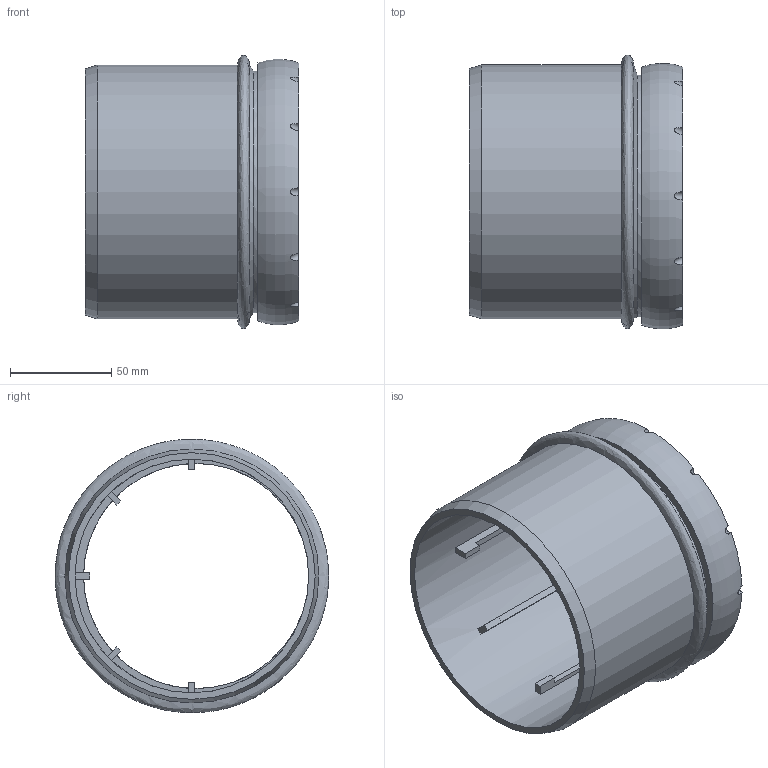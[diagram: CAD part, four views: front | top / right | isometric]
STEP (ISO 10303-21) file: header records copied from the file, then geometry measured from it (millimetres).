
FILE_DESCRIPTION(/* description */ (''),/* implementation_level */ '2;1');
FILE_NAME(/* name */ 'H:\Geberit-Teile\Export\Reduktion_ART\stp\393675.stp',/* time_stamp */ '2017-02-28T08:32:25+01:00',/* author */ ('seihe2'),/* organization */ (''),/* preprocessor_version */ 'ST-DEVELOPER v15.2',/* originating_system */ 'Autodesk Inventor 2014',/* authorisation */ '');
FILE_SCHEMA (('AUTOMOTIVE_DESIGN { 1 0 10303 214 3 1 1 }'));
Length unit declared in the file: millimetre
Products named in the file (1): 393675
Bounding box: 105 x 134.93 x 134.8 mm (x, y, z)
Volume: 220844.2 mm3; surface area: 95544.2 mm2
Topology: 1 solids, 1 shells, 59 faces, 158 edges, 104 vertices
Faces by surface type: plane 32, cylinder 23, bspline 2, torus 1, cone 1
Full cylindrical faces by diameter (mm): 111 x1, 111.3 x1, 115.2 x1, 119.2 x1, 121.5 x1, 125.2 x1
Entity records: 2344 total; most frequent: CARTESIAN_POINT 780, DIRECTION 323, ORIENTED_EDGE 296, EDGE_CURVE 148, AXIS2_PLACEMENT_3D 130, VERTEX_POINT 102, EDGE_LOOP 72, LINE 63
